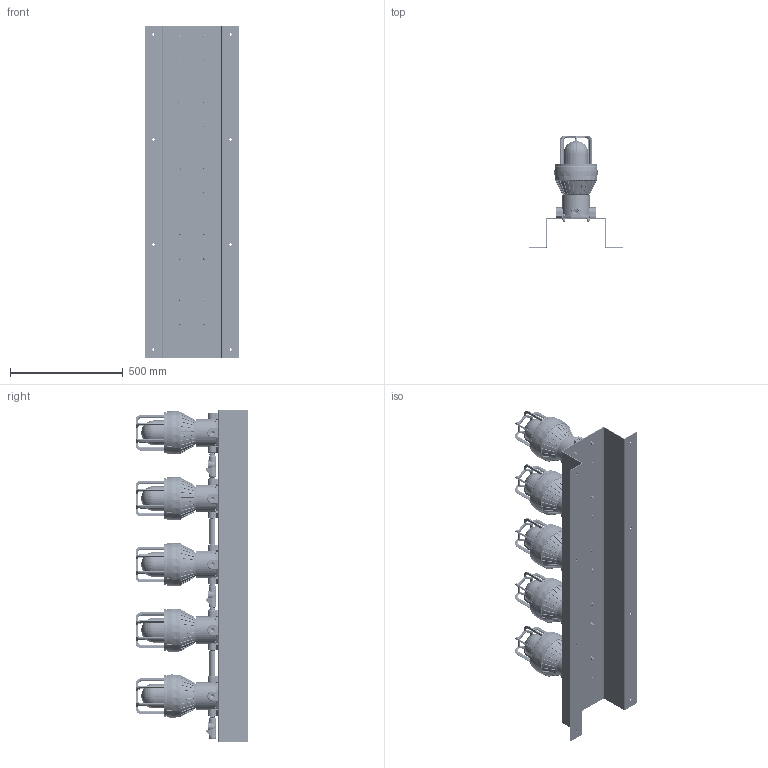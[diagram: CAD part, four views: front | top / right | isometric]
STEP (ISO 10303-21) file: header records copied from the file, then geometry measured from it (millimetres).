
FILE_DESCRIPTION (( 'STEP AP214' ), '1' );
FILE_NAME ('EPL-TL-5X10W-C.STEP', '2016-12-07T15:25:29', ( '' ), ( '' ), 'SwSTEP 2.0', 'SolidWorks 2016', '' );
FILE_SCHEMA (( 'AUTOMOTIVE_DESIGN' ));
Length unit declared in the file: inch
Products named in the file (17): EYS - .5 ends .75 side .25 angle; 0.75in Plug - Square Drive_1162T48; EPSL-80-141-CLG-WC; Small Wire Cage; EPSL-80-141_No Pendant; Lens A; Body; EPSL-80-141 Ceiling Mount; EPL-TL Tophat_EPL-TL-5X10W-C; EPL-TL-5X10W-C; hex bolt_ai_HBOLT 0.2500-20x1x0.75-N; hex nut_ai_HNUT 0.2500-20-D-N; flat washer type b regular_ai_Regular FW 0.25; 0.75 - 6in Long - Nipple_4830K198; 0.75 Nipple_4830K191; EYS; 0.25in Plug - Square Drive_1162T45
Assembly tree (115 placements, depth 4):
  EPL-TL-5X10W-C
    EPL-TL Tophat_EPL-TL-5X10W-C
    EPSL-80-141-CLG-WC  x5
      EPSL-80-141 Ceiling Mount
      EPSL-80-141_No Pendant
        Body
        Lens A
      Small Wire Cage
    0.75in Plug - Square Drive_1162T48  x11
    EYS  x3
      EYS - .5 ends .75 side .25 angle
      0.75in Plug - Square Drive_1162T48
      0.25in Plug - Square Drive_1162T45
    0.75 Nipple_4830K191  x5
    0.75 - 6in Long - Nipple_4830K198  x2
    flat washer type b regular_ai_Regular FW 0.25  x40
    hex nut_ai_HNUT 0.2500-20-D-N  x20
    hex bolt_ai_HBOLT 0.2500-20x1x0.75-N  x20
Bounding box: 419.1 x 497.84 x 1473.2 mm (x, y, z)
Volume: 26502268.8 mm3; surface area: 6136324.3 mm2
Topology: 153 solids, 153 shells, 12785 faces, 33524 edges, 20936 vertices
Faces by surface type: plane 5167, cylinder 4101, cone 1878, bspline 1281, sphere 180, torus 178
Entity records: 228491 total; most frequent: CARTESIAN_POINT 166879, ORIENTED_EDGE 13066, DIRECTION 11031, EDGE_CURVE 6533, VERTEX_POINT 4099, AXIS2_PLACEMENT_3D 3856, VECTOR 3319, LINE 3319
